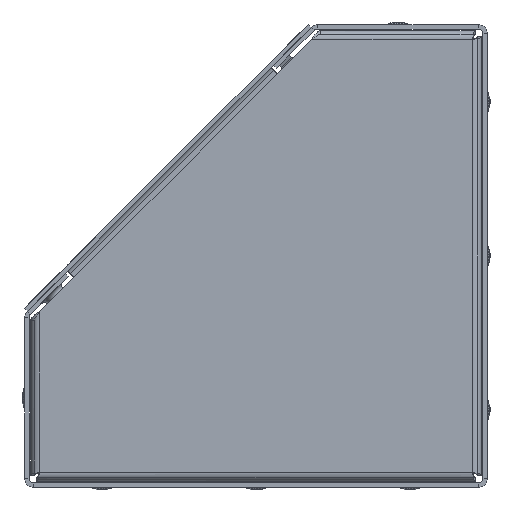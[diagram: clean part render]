
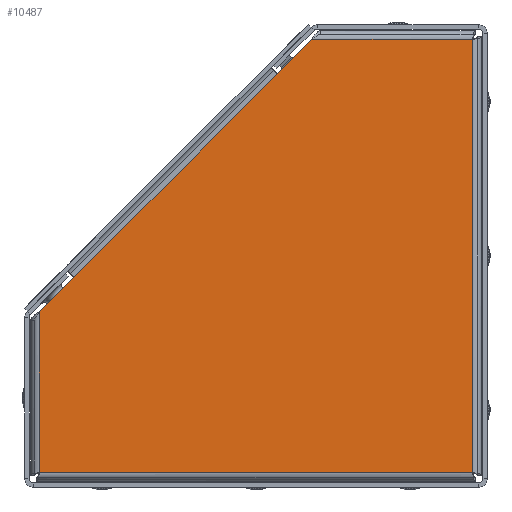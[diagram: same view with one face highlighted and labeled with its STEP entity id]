
A CAD part, left-side view. The second image highlights one B-rep face of the part: STEP entity #10487.
In plain terms, the highlighted planar face has unit normal (-1, 0, 0) as drawn and (1, 0, 0) by its records, which use the part's own axes.
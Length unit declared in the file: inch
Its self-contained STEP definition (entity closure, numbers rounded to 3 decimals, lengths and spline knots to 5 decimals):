
#125 = VERTEX_POINT ( 'NONE', #10779 ) ;
#154 = EDGE_CURVE ( 'NONE', #10560, #6057, #5659, .T. ) ;
#205 = ORIENTED_EDGE ( 'NONE', *, *, #5302, .T. ) ;
#324 = DIRECTION ( 'NONE',  ( 0., 1., 0. ) ) ;
#502 = EDGE_CURVE ( 'NONE', #6057, #6842, #11798, .T. ) ;
#756 = VERTEX_POINT ( 'NONE', #11679 ) ;
#802 = CARTESIAN_POINT ( 'NONE',  ( 0., 5.62, -5.62 ) ) ;
#1528 = VECTOR ( 'NONE', #7009, 39.37008 ) ;
#1558 = DIRECTION ( 'NONE',  ( 0., 0., -1. ) ) ;
#1694 = VERTEX_POINT ( 'NONE', #7389 ) ;
#1703 = DIRECTION ( 'NONE',  ( 0., 0., 1. ) ) ;
#1938 = ORIENTED_EDGE ( 'NONE', *, *, #10292, .T. ) ;
#2178 = VECTOR ( 'NONE', #2816, 39.37008 ) ;
#2270 = ORIENTED_EDGE ( 'NONE', *, *, #502, .T. ) ;
#2816 = DIRECTION ( 'NONE',  ( 0., 0., -1. ) ) ;
#2829 = CARTESIAN_POINT ( 'NONE',  ( 0., 2.53526, -0.44725 ) ) ;
#3017 = LINE ( 'NONE', #11248, #10917 ) ;
#3235 = VECTOR ( 'NONE', #9943, 39.37008 ) ;
#3279 = CARTESIAN_POINT ( 'NONE',  ( 0., 5.62, -3.53199 ) ) ;
#3410 = ORIENTED_EDGE ( 'NONE', *, *, #8116, .T. ) ;
#3477 = DIRECTION ( 'NONE',  ( 0., -0.707, 0.707 ) ) ;
#3479 = CARTESIAN_POINT ( 'NONE',  ( 0., 5.17275, -3.08474 ) ) ;
#3483 = LINE ( 'NONE', #802, #8366 ) ;
#3890 = VECTOR ( 'NONE', #3477, 39.37008 ) ;
#3940 = LINE ( 'NONE', #8825, #1528 ) ;
#4255 = CARTESIAN_POINT ( 'NONE',  ( 0., 0., 0. ) ) ;
#4392 = CARTESIAN_POINT ( 'NONE',  ( 0., 5.17275, -3.08474 ) ) ;
#5302 = EDGE_CURVE ( 'NONE', #125, #10560, #8802, .T. ) ;
#5321 = FACE_OUTER_BOUND ( 'NONE', #11648, .T. ) ;
#5659 = LINE ( 'NONE', #4392, #3235 ) ;
#6052 = DIRECTION ( 'NONE',  ( 0., -0.707, 0.707 ) ) ;
#6057 = VERTEX_POINT ( 'NONE', #2829 ) ;
#6117 = PLANE ( 'NONE',  #7112 ) ;
#6167 = ORIENTED_EDGE ( 'NONE', *, *, #11268, .T. ) ;
#6558 = CARTESIAN_POINT ( 'NONE',  ( 0., 0., 0. ) ) ;
#6748 = VERTEX_POINT ( 'NONE', #7841 ) ;
#6842 = VERTEX_POINT ( 'NONE', #10694 ) ;
#7009 = DIRECTION ( 'NONE',  ( 0., -1., 0. ) ) ;
#7044 = DIRECTION ( 'NONE',  ( 1., 0., 0. ) ) ;
#7112 = AXIS2_PLACEMENT_3D ( 'NONE', #4255, #7044, #1558 ) ;
#7389 = CARTESIAN_POINT ( 'NONE',  ( 0., 5.62, -5.62 ) ) ;
#7841 = CARTESIAN_POINT ( 'NONE',  ( 0., 0., -5.62 ) ) ;
#7880 = ORIENTED_EDGE ( 'NONE', *, *, #154, .T. ) ;
#8113 = CARTESIAN_POINT ( 'NONE',  ( 0., 5.62, -3.53199 ) ) ;
#8116 = EDGE_CURVE ( 'NONE', #6842, #756, #3940, .T. ) ;
#8366 = VECTOR ( 'NONE', #1703, 39.37008 ) ;
#8802 = LINE ( 'NONE', #8113, #3890 ) ;
#8825 = CARTESIAN_POINT ( 'NONE',  ( 0., 2.08801, 0. ) ) ;
#9305 = EDGE_CURVE ( 'NONE', #756, #6748, #11654, .T. ) ;
#9388 = VECTOR ( 'NONE', #6052, 39.37008 ) ;
#9943 = DIRECTION ( 'NONE',  ( 0., -0.707, 0.707 ) ) ;
#10292 = EDGE_CURVE ( 'NONE', #6748, #1694, #3017, .T. ) ;
#10329 = ORIENTED_EDGE ( 'NONE', *, *, #9305, .T. ) ;
#10487 = ADVANCED_FACE ( 'NONE', ( #5321 ), #6117, .T. ) ;
#10560 = VERTEX_POINT ( 'NONE', #3479 ) ;
#10694 = CARTESIAN_POINT ( 'NONE',  ( 0., 2.08801, 0. ) ) ;
#10779 = CARTESIAN_POINT ( 'NONE',  ( 0., 5.62, -3.53199 ) ) ;
#10917 = VECTOR ( 'NONE', #324, 39.37008 ) ;
#11248 = CARTESIAN_POINT ( 'NONE',  ( 0., 0., -5.62 ) ) ;
#11268 = EDGE_CURVE ( 'NONE', #1694, #125, #3483, .T. ) ;
#11648 = EDGE_LOOP ( 'NONE', ( #3410, #10329, #1938, #6167, #205, #7880, #2270 ) ) ;
#11654 = LINE ( 'NONE', #6558, #2178 ) ;
#11679 = CARTESIAN_POINT ( 'NONE',  ( 0., 0., 0. ) ) ;
#11798 = LINE ( 'NONE', #3279, #9388 ) ;
